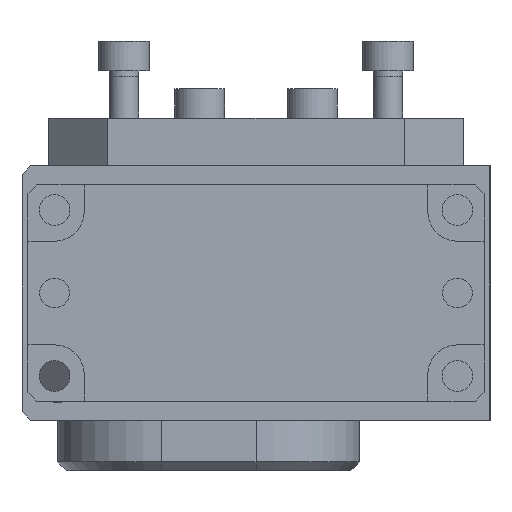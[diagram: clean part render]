
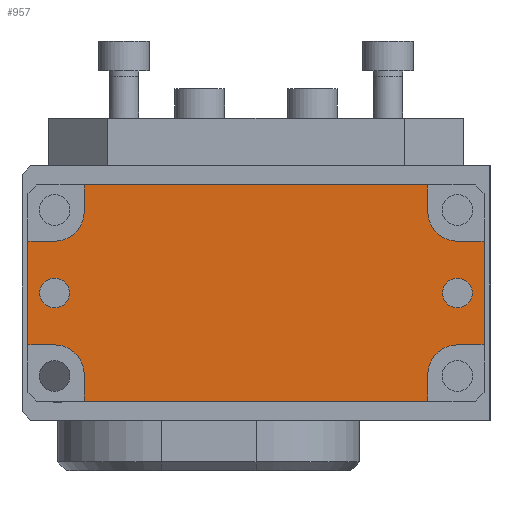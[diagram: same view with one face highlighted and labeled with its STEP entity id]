
A CAD part, left-side view. The second image highlights one B-rep face of the part: STEP entity #957.
In plain terms, the highlighted planar face has unit normal (-1, 0, 0).
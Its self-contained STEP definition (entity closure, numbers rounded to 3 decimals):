
#957 = ADVANCED_FACE( '', ( #2210, #2211, #2212 ), #2213, .F. );
#2210 = FACE_BOUND( '', #3793, .T. );
#2211 = FACE_BOUND( '', #3794, .T. );
#2212 = FACE_OUTER_BOUND( '', #3795, .T. );
#2213 = PLANE( '', #3796 );
#3793 = EDGE_LOOP( '', ( #6369 ) );
#3794 = EDGE_LOOP( '', ( #6370 ) );
#3795 = EDGE_LOOP( '', ( #6371, #6372, #6373, #6374, #6375, #6376, #6377, #6378, #6379, #6380, #6381, #6382, #6383, #6384, #6385, #6386 ) );
#3796 = AXIS2_PLACEMENT_3D( '', #6387, #6388, #6389 );
#6369 = ORIENTED_EDGE( '', *, *, #8640, .F. );
#6370 = ORIENTED_EDGE( '', *, *, #8400, .T. );
#6371 = ORIENTED_EDGE( '', *, *, #8266, .F. );
#6372 = ORIENTED_EDGE( '', *, *, #8467, .F. );
#6373 = ORIENTED_EDGE( '', *, *, #8619, .F. );
#6374 = ORIENTED_EDGE( '', *, *, #7852, .F. );
#6375 = ORIENTED_EDGE( '', *, *, #8641, .F. );
#6376 = ORIENTED_EDGE( '', *, *, #8021, .F. );
#6377 = ORIENTED_EDGE( '', *, *, #8340, .F. );
#6378 = ORIENTED_EDGE( '', *, *, #7916, .F. );
#6379 = ORIENTED_EDGE( '', *, *, #8637, .F. );
#6380 = ORIENTED_EDGE( '', *, *, #8642, .F. );
#6381 = ORIENTED_EDGE( '', *, *, #8463, .F. );
#6382 = ORIENTED_EDGE( '', *, *, #8257, .F. );
#6383 = ORIENTED_EDGE( '', *, *, #8643, .F. );
#6384 = ORIENTED_EDGE( '', *, *, #8644, .F. );
#6385 = ORIENTED_EDGE( '', *, *, #8026, .F. );
#6386 = ORIENTED_EDGE( '', *, *, #8449, .F. );
#6387 = CARTESIAN_POINT( '', ( -91., 38.5, 3.25 ) );
#6388 = DIRECTION( '', ( 1., 0., 0. ) );
#6389 = DIRECTION( '', ( 0., 1., 0. ) );
#7852 = EDGE_CURVE( '', #9101, #9102, #9103, .T. );
#7916 = EDGE_CURVE( '', #9217, #9218, #9219, .T. );
#8021 = EDGE_CURVE( '', #9404, #9405, #9406, .F. );
#8026 = EDGE_CURVE( '', #9413, #9414, #9415, .T. );
#8257 = EDGE_CURVE( '', #9779, #9781, #9782, .T. );
#8266 = EDGE_CURVE( '', #9795, #9796, #9797, .T. );
#8340 = EDGE_CURVE( '', #9218, #9404, #9909, .T. );
#8400 = EDGE_CURVE( '', #9995, #9995, #9996, .T. );
#8449 = EDGE_CURVE( '', #9796, #9413, #10067, .T. );
#8463 = EDGE_CURVE( '', #9781, #10087, #10088, .T. );
#8467 = EDGE_CURVE( '', #10093, #9795, #10094, .F. );
#8619 = EDGE_CURVE( '', #9102, #10093, #10313, .T. );
#8637 = EDGE_CURVE( '', #10333, #9217, #10334, .T. );
#8640 = EDGE_CURVE( '', #10337, #10337, #10338, .T. );
#8641 = EDGE_CURVE( '', #9405, #9101, #10339, .T. );
#8642 = EDGE_CURVE( '', #10087, #10333, #10340, .F. );
#8643 = EDGE_CURVE( '', #10341, #9779, #10342, .T. );
#8644 = EDGE_CURVE( '', #9414, #10341, #10343, .F. );
#9101 = VERTEX_POINT( '', #10937 );
#9102 = VERTEX_POINT( '', #10938 );
#9103 = LINE( '', #10939, #10940 );
#9217 = VERTEX_POINT( '', #11087 );
#9218 = VERTEX_POINT( '', #11088 );
#9219 = LINE( '', #11089, #11090 );
#9404 = VERTEX_POINT( '', #11328 );
#9405 = VERTEX_POINT( '', #11329 );
#9406 = CIRCLE( '', #11330, 5. );
#9413 = VERTEX_POINT( '', #11339 );
#9414 = VERTEX_POINT( '', #11340 );
#9415 = LINE( '', #11341, #11342 );
#9779 = VERTEX_POINT( '', #11926 );
#9781 = VERTEX_POINT( '', #11929 );
#9782 = LINE( '', #11930, #11931 );
#9795 = VERTEX_POINT( '', #11951 );
#9796 = VERTEX_POINT( '', #11952 );
#9797 = LINE( '', #11953, #11954 );
#9909 = LINE( '', #12232, #12233 );
#9995 = VERTEX_POINT( '', #12419 );
#9996 = CIRCLE( '', #12420, 2.51 );
#10067 = LINE( '', #12514, #12515 );
#10087 = VERTEX_POINT( '', #12541 );
#10088 = LINE( '', #12542, #12543 );
#10093 = VERTEX_POINT( '', #12550 );
#10094 = CIRCLE( '', #12551, 5. );
#10313 = LINE( '', #12922, #12923 );
#10333 = VERTEX_POINT( '', #12947 );
#10334 = LINE( '', #12948, #12949 );
#10337 = VERTEX_POINT( '', #12953 );
#10338 = CIRCLE( '', #12954, 2.51 );
#10339 = LINE( '', #12955, #12956 );
#10340 = CIRCLE( '', #12957, 5. );
#10341 = VERTEX_POINT( '', #12958 );
#10342 = LINE( '', #12959, #12960 );
#10343 = CIRCLE( '', #12961, 5. );
#10937 = CARTESIAN_POINT( '', ( -91., -38.5, 30.25 ) );
#10938 = CARTESIAN_POINT( '', ( -91., -38.5, 12.75 ) );
#10939 = CARTESIAN_POINT( '', ( -91., -38.5, 39.75 ) );
#10940 = VECTOR( '', #13610, 1000. );
#11087 = CARTESIAN_POINT( '', ( -91., 29., 39.75 ) );
#11088 = CARTESIAN_POINT( '', ( -91., -29., 39.75 ) );
#11089 = CARTESIAN_POINT( '', ( -91., 38.5, 39.75 ) );
#11090 = VECTOR( '', #13707, 1000. );
#11328 = CARTESIAN_POINT( '', ( -91., -29., 35.25 ) );
#11329 = CARTESIAN_POINT( '', ( -91., -34., 30.25 ) );
#11330 = AXIS2_PLACEMENT_3D( '', #13857, #13858, #13859 );
#11339 = CARTESIAN_POINT( '', ( -91., 29., 3.25 ) );
#11340 = CARTESIAN_POINT( '', ( -91., 29., 7.75 ) );
#11341 = CARTESIAN_POINT( '', ( -91., 29., 3.25 ) );
#11342 = VECTOR( '', #13865, 1000. );
#11926 = CARTESIAN_POINT( '', ( -91., 38.5, 12.75 ) );
#11929 = CARTESIAN_POINT( '', ( -91., 38.5, 30.25 ) );
#11930 = CARTESIAN_POINT( '', ( -91., 38.5, 3.25 ) );
#11931 = VECTOR( '', #14134, 1000. );
#11951 = CARTESIAN_POINT( '', ( -91., -29., 7.75 ) );
#11952 = CARTESIAN_POINT( '', ( -91., -29., 3.25 ) );
#11953 = CARTESIAN_POINT( '', ( -91., -29., 3.25 ) );
#11954 = VECTOR( '', #14142, 1000. );
#12232 = CARTESIAN_POINT( '', ( -91., -29., 3.25 ) );
#12233 = VECTOR( '', #14227, 1000. );
#12419 = CARTESIAN_POINT( '', ( -91., 36.51, 21.5 ) );
#12420 = AXIS2_PLACEMENT_3D( '', #14303, #14304, #14305 );
#12514 = CARTESIAN_POINT( '', ( -91., -38.5, 3.25 ) );
#12515 = VECTOR( '', #14359, 1000. );
#12541 = CARTESIAN_POINT( '', ( -91., 34., 30.25 ) );
#12542 = CARTESIAN_POINT( '', ( -91., 38.5, 30.25 ) );
#12543 = VECTOR( '', #14378, 1000. );
#12550 = CARTESIAN_POINT( '', ( -91., -34., 12.75 ) );
#12551 = AXIS2_PLACEMENT_3D( '', #14381, #14382, #14383 );
#12922 = CARTESIAN_POINT( '', ( -91., 38.5, 12.75 ) );
#12923 = VECTOR( '', #14551, 1000. );
#12947 = CARTESIAN_POINT( '', ( -91., 29., 35.25 ) );
#12948 = CARTESIAN_POINT( '', ( -91., 29., 3.25 ) );
#12949 = VECTOR( '', #14568, 1000. );
#12953 = CARTESIAN_POINT( '', ( -91., -36.51, 21.5 ) );
#12954 = AXIS2_PLACEMENT_3D( '', #14570, #14571, #14572 );
#12955 = CARTESIAN_POINT( '', ( -91., 38.5, 30.25 ) );
#12956 = VECTOR( '', #14573, 1000. );
#12957 = AXIS2_PLACEMENT_3D( '', #14574, #14575, #14576 );
#12958 = CARTESIAN_POINT( '', ( -91., 34., 12.75 ) );
#12959 = CARTESIAN_POINT( '', ( -91., 38.5, 12.75 ) );
#12960 = VECTOR( '', #14577, 1000. );
#12961 = AXIS2_PLACEMENT_3D( '', #14578, #14579, #14580 );
#13610 = DIRECTION( '', ( 0., 0., -1. ) );
#13707 = DIRECTION( '', ( 0., -1., 0. ) );
#13857 = CARTESIAN_POINT( '', ( -91., -34., 35.25 ) );
#13858 = DIRECTION( '', ( 1., 0., 0. ) );
#13859 = DIRECTION( '', ( 0., 0., -1. ) );
#13865 = DIRECTION( '', ( 0., 0., 1. ) );
#14134 = DIRECTION( '', ( 0., 0., 1. ) );
#14142 = DIRECTION( '', ( 0., 0., -1. ) );
#14227 = DIRECTION( '', ( 0., 0., -1. ) );
#14303 = CARTESIAN_POINT( '', ( -91., 34., 21.5 ) );
#14304 = DIRECTION( '', ( 1., 0., 0. ) );
#14305 = DIRECTION( '', ( 0., 1., 0. ) );
#14359 = DIRECTION( '', ( 0., 1., 0. ) );
#14378 = DIRECTION( '', ( 0., -1., 0. ) );
#14381 = CARTESIAN_POINT( '', ( -91., -34., 7.75 ) );
#14382 = DIRECTION( '', ( 1., 0., 0. ) );
#14383 = DIRECTION( '', ( 0., 0., -1. ) );
#14551 = DIRECTION( '', ( 0., 1., 0. ) );
#14568 = DIRECTION( '', ( 0., 0., 1. ) );
#14570 = CARTESIAN_POINT( '', ( -91., -34., 21.5 ) );
#14571 = DIRECTION( '', ( -1., 0., 0. ) );
#14572 = DIRECTION( '', ( 0., -1., 0. ) );
#14573 = DIRECTION( '', ( 0., -1., 0. ) );
#14574 = CARTESIAN_POINT( '', ( -91., 34., 35.25 ) );
#14575 = DIRECTION( '', ( 1., 0., 0. ) );
#14576 = DIRECTION( '', ( 0., 0., -1. ) );
#14577 = DIRECTION( '', ( 0., 1., 0. ) );
#14578 = CARTESIAN_POINT( '', ( -91., 34., 7.75 ) );
#14579 = DIRECTION( '', ( 1., 0., 0. ) );
#14580 = DIRECTION( '', ( 0., 0., -1. ) );
